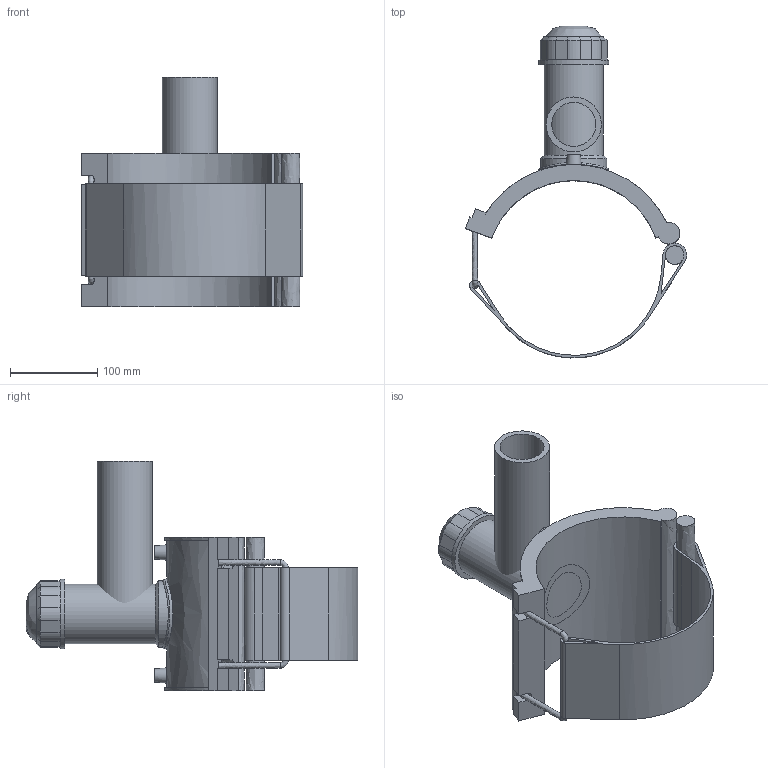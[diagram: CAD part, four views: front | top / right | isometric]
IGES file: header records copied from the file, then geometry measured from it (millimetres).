
Global section: file name: 4963P4200063; native system: Autodesk Inventor 2019; preprocessor: unknown; author: KIM; date: 20220317.113204; units: millimetre
Bounding box: 253.18 x 379.91 x 263 mm (x, y, z)
Volume: 1675956.4 mm3; surface area: 376038.1 mm2
Topology: 3 solids, 3 shells, 122 faces, 309 edges, 201 vertices
Faces by surface type: bspline 122
